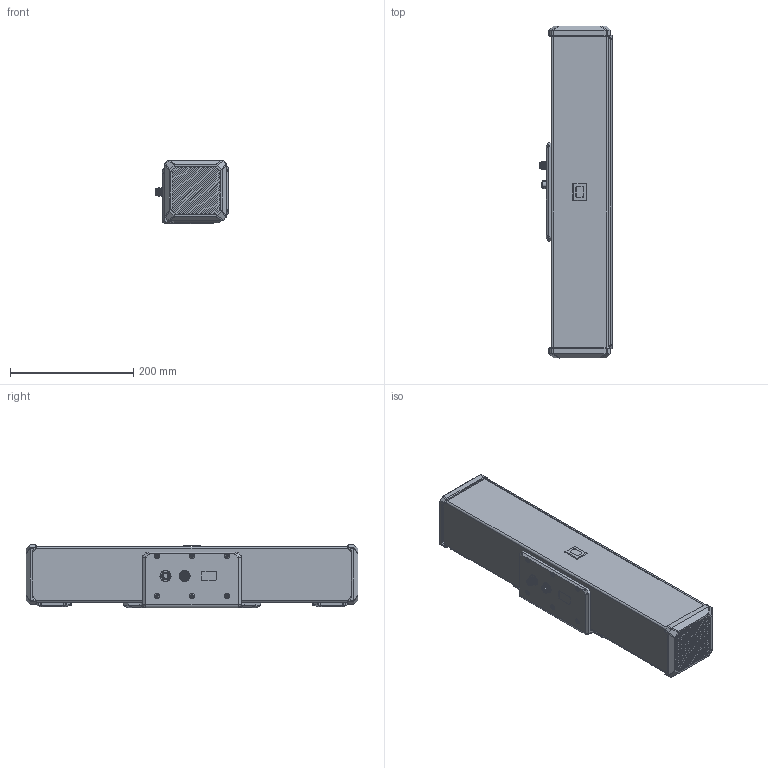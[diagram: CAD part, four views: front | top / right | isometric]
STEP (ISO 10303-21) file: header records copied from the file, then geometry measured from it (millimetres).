
FILE_DESCRIPTION((''),'2;1');
FILE_NAME('1400P-V1_SW0001','2024-06-24T17:02:19',('guodanfeng'),(''),'CREO PARAMETRIC BY PTC INC, 2020044','CREO PARAMETRIC BY PTC INC, 2020044','');
FILE_SCHEMA(('AUTOMOTIVE_DESIGN { 1 0 10303 214 1 1 1 1 }'));
Products named in the file (1): 1400P-V1_SW0001
Bounding box: 117.8 x 538 x 103 mm (x, y, z)
Surface area: 332429.8 mm2 (no closed solid volume)
Topology: 0 solids, 43 shells, 902 faces, 2941 edges, 2047 vertices
Faces by surface type: plane 458, cylinder 258, cone 66, extrusion 50, bspline 37, torus 33
Entity records: 50842 total; most frequent: CARTESIAN_POINT 19064, ORIENTED_EDGE 4765, DIRECTION 4758, EDGE_CURVE 2933, VERTEX_POINT 2047, VECTOR 1712, LINE 1662, AXIS2_PLACEMENT_3D 1523
